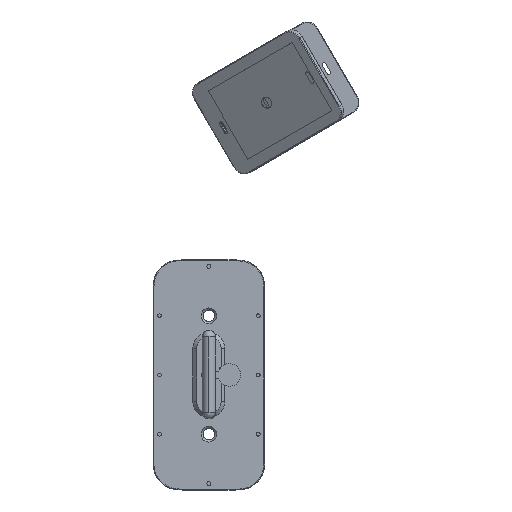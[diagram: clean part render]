
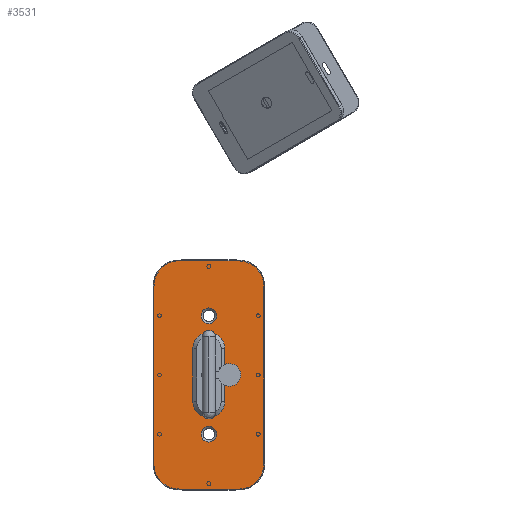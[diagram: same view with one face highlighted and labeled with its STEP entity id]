
A CAD part, top view. The second image highlights one B-rep face of the part: STEP entity #3531.
In plain terms, the highlighted planar face has unit normal (0, 0, 1) as drawn and (0, 0, -1) by its records, which use the part's own axes.
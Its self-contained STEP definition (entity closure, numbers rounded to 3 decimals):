
#120=FACE_BOUND('',#1253,.T.);
#121=FACE_BOUND('',#1254,.T.);
#122=FACE_BOUND('',#1255,.T.);
#191=PLANE('',#3946);
#292=B_SPLINE_CURVE_WITH_KNOTS('',3,(#6095,#6096,#6097,#6098,#6099,#6100,
#6101,#6102,#6103,#6104,#6105,#6106,#6107,#6108),.UNSPECIFIED.,.F.,.F.,
(4,1,1,1,1,1,1,1,1,1,1,4),(0.,0.886,1.772,2.658,
3.544,5.316,7.088,8.86,9.746,
10.631,11.517,12.403),.UNSPECIFIED.);
#294=B_SPLINE_CURVE_WITH_KNOTS('',3,(#6202,#6203,#6204,#6205,#6206,#6207,
#6208,#6209,#6210,#6211,#6212,#6213,#6214,#6215),.UNSPECIFIED.,.F.,.F.,
(4,1,1,1,1,1,1,1,1,1,1,4),(0.,0.886,1.772,2.658,
3.544,5.316,7.088,8.86,9.746,
10.631,11.517,12.403),.UNSPECIFIED.);
#296=B_SPLINE_CURVE_WITH_KNOTS('',3,(#6309,#6310,#6311,#6312,#6313,#6314,
#6315,#6316,#6317,#6318,#6319,#6320,#6321,#6322),.UNSPECIFIED.,.F.,.F.,
(4,1,1,1,1,1,1,1,1,1,1,4),(0.,0.886,1.772,
2.658,3.544,5.316,7.088,8.86,
9.746,10.631,11.517,12.403),
 .UNSPECIFIED.);
#298=B_SPLINE_CURVE_WITH_KNOTS('',3,(#6404,#6405,#6406,#6407,#6408,#6409,
#6410,#6411,#6412,#6413,#6414,#6415),.UNSPECIFIED.,.F.,.F.,(4,1,1,1,1,1,
1,1,1,4),(0.,0.886,1.772,2.658,3.544,
5.316,7.088,8.86,10.631,12.403),
 .UNSPECIFIED.);
#369=LINE('',#6114,#658);
#371=LINE('',#6221,#660);
#373=LINE('',#6328,#662);
#374=LINE('',#6417,#663);
#658=VECTOR('',#4497,10.);
#660=VECTOR('',#4505,10.);
#662=VECTOR('',#4513,10.);
#663=VECTOR('',#4518,10.);
#1026=FACE_OUTER_BOUND('',#1252,.T.);
#1252=EDGE_LOOP('',(#2741,#2742,#2743,#2744,#2745,#2746,#2747,#2748));
#1253=EDGE_LOOP('',(#2749));
#1254=EDGE_LOOP('',(#2750));
#1255=EDGE_LOOP('',(#2751));
#1506=CIRCLE('',#3947,20.75);
#1507=CIRCLE('',#3948,20.75);
#1508=CIRCLE('',#3949,20.75);
#1712=VERTEX_POINT('',#6075);
#1715=VERTEX_POINT('',#6093);
#1716=VERTEX_POINT('',#6110);
#1718=VERTEX_POINT('',#6185);
#1720=VERTEX_POINT('',#6217);
#1722=VERTEX_POINT('',#6292);
#1724=VERTEX_POINT('',#6324);
#1726=VERTEX_POINT('',#6389);
#1733=VERTEX_POINT('',#6539);
#1734=VERTEX_POINT('',#6541);
#1735=VERTEX_POINT('',#6543);
#2079=EDGE_CURVE('',#1715,#1712,#292,.T.);
#2082=EDGE_CURVE('',#1712,#1716,#369,.T.);
#2085=EDGE_CURVE('',#1716,#1718,#294,.T.);
#2088=EDGE_CURVE('',#1718,#1720,#371,.T.);
#2091=EDGE_CURVE('',#1720,#1722,#296,.T.);
#2094=EDGE_CURVE('',#1722,#1724,#373,.T.);
#2097=EDGE_CURVE('',#1724,#1726,#298,.T.);
#2098=EDGE_CURVE('',#1726,#1715,#374,.T.);
#2109=EDGE_CURVE('',#1733,#1733,#1506,.T.);
#2110=EDGE_CURVE('',#1734,#1734,#1507,.T.);
#2111=EDGE_CURVE('',#1735,#1735,#1508,.T.);
#2741=ORIENTED_EDGE('',*,*,#2079,.F.);
#2742=ORIENTED_EDGE('',*,*,#2098,.F.);
#2743=ORIENTED_EDGE('',*,*,#2097,.F.);
#2744=ORIENTED_EDGE('',*,*,#2094,.F.);
#2745=ORIENTED_EDGE('',*,*,#2091,.F.);
#2746=ORIENTED_EDGE('',*,*,#2088,.F.);
#2747=ORIENTED_EDGE('',*,*,#2085,.F.);
#2748=ORIENTED_EDGE('',*,*,#2082,.F.);
#2749=ORIENTED_EDGE('',*,*,#2109,.F.);
#2750=ORIENTED_EDGE('',*,*,#2110,.F.);
#2751=ORIENTED_EDGE('',*,*,#2111,.F.);
#3531=ADVANCED_FACE('',(#1026,#120,#121,#122),#191,.F.);
#3946=AXIS2_PLACEMENT_3D('',#6538,#4531,#4532);
#3947=AXIS2_PLACEMENT_3D('',#6540,#4533,#4534);
#3948=AXIS2_PLACEMENT_3D('',#6542,#4535,#4536);
#3949=AXIS2_PLACEMENT_3D('',#6544,#4537,#4538);
#4497=DIRECTION('',(1.,0.,0.));
#4505=DIRECTION('',(0.,1.,0.));
#4513=DIRECTION('',(-1.,0.,0.));
#4518=DIRECTION('',(0.,-1.,0.));
#4531=DIRECTION('center_axis',(0.,0.,1.));
#4532=DIRECTION('ref_axis',(1.,0.,0.));
#4533=DIRECTION('center_axis',(0.,0.,-1.));
#4534=DIRECTION('ref_axis',(1.,0.,0.));
#4535=DIRECTION('center_axis',(0.,0.,-1.));
#4536=DIRECTION('ref_axis',(1.,0.,0.));
#4537=DIRECTION('center_axis',(0.,0.,-1.));
#4538=DIRECTION('ref_axis',(1.,0.,0.));
#6075=CARTESIAN_POINT('',(87.5,11.,0.));
#6093=CARTESIAN_POINT('',(11.,87.5,0.));
#6095=CARTESIAN_POINT('Ctrl Pts',(11.,87.5,0.));
#6096=CARTESIAN_POINT('Ctrl Pts',(11.,84.547,0.));
#6097=CARTESIAN_POINT('Ctrl Pts',(11.003,78.658,0.));
#6098=CARTESIAN_POINT('Ctrl Pts',(11.561,69.796,0.));
#6099=CARTESIAN_POINT('Ctrl Pts',(13.11,61.045,0.));
#6100=CARTESIAN_POINT('Ctrl Pts',(16.746,49.769,0.));
#6101=CARTESIAN_POINT('Ctrl Pts',(24.298,36.919,0.));
#6102=CARTESIAN_POINT('Ctrl Pts',(36.924,24.294,0.));
#6103=CARTESIAN_POINT('Ctrl Pts',(49.766,16.745,0.));
#6104=CARTESIAN_POINT('Ctrl Pts',(61.051,13.109,0.));
#6105=CARTESIAN_POINT('Ctrl Pts',(69.788,11.563,0.));
#6106=CARTESIAN_POINT('Ctrl Pts',(78.645,11.003,0.));
#6107=CARTESIAN_POINT('Ctrl Pts',(84.547,11.,0.));
#6108=CARTESIAN_POINT('Ctrl Pts',(87.5,11.,0.));
#6110=CARTESIAN_POINT('',(540.5,11.,0.));
#6114=CARTESIAN_POINT('',(161.5,11.,0.));
#6185=CARTESIAN_POINT('',(617.,87.5,0.));
#6202=CARTESIAN_POINT('Ctrl Pts',(540.5,11.,0.));
#6203=CARTESIAN_POINT('Ctrl Pts',(543.453,11.,0.));
#6204=CARTESIAN_POINT('Ctrl Pts',(549.343,11.002,0.));
#6205=CARTESIAN_POINT('Ctrl Pts',(558.204,11.562,0.));
#6206=CARTESIAN_POINT('Ctrl Pts',(566.956,13.11,0.));
#6207=CARTESIAN_POINT('Ctrl Pts',(578.228,16.747,0.));
#6208=CARTESIAN_POINT('Ctrl Pts',(591.082,24.297,0.));
#6209=CARTESIAN_POINT('Ctrl Pts',(603.706,36.924,0.));
#6210=CARTESIAN_POINT('Ctrl Pts',(611.254,49.766,0.));
#6211=CARTESIAN_POINT('Ctrl Pts',(614.892,61.05,0.));
#6212=CARTESIAN_POINT('Ctrl Pts',(616.437,69.788,0.));
#6213=CARTESIAN_POINT('Ctrl Pts',(616.998,78.645,0.));
#6214=CARTESIAN_POINT('Ctrl Pts',(617.,84.547,0.));
#6215=CARTESIAN_POINT('Ctrl Pts',(617.,87.5,0.));
#6217=CARTESIAN_POINT('',(617.,226.5,0.));
#6221=CARTESIAN_POINT('',(617.,83.,0.));
#6292=CARTESIAN_POINT('',(540.5,303.,0.));
#6309=CARTESIAN_POINT('Ctrl Pts',(617.,226.5,0.));
#6310=CARTESIAN_POINT('Ctrl Pts',(617.,229.453,0.));
#6311=CARTESIAN_POINT('Ctrl Pts',(616.998,235.343,0.));
#6312=CARTESIAN_POINT('Ctrl Pts',(616.438,244.204,0.));
#6313=CARTESIAN_POINT('Ctrl Pts',(614.89,252.956,0.));
#6314=CARTESIAN_POINT('Ctrl Pts',(611.252,264.228,0.));
#6315=CARTESIAN_POINT('Ctrl Pts',(603.703,277.082,0.));
#6316=CARTESIAN_POINT('Ctrl Pts',(591.076,289.706,0.));
#6317=CARTESIAN_POINT('Ctrl Pts',(578.234,297.254,0.));
#6318=CARTESIAN_POINT('Ctrl Pts',(566.95,300.892,0.));
#6319=CARTESIAN_POINT('Ctrl Pts',(558.212,302.437,0.));
#6320=CARTESIAN_POINT('Ctrl Pts',(549.355,302.998,0.));
#6321=CARTESIAN_POINT('Ctrl Pts',(543.453,303.,0.));
#6322=CARTESIAN_POINT('Ctrl Pts',(540.5,303.,0.));
#6324=CARTESIAN_POINT('',(87.5,303.,0.));
#6328=CARTESIAN_POINT('',(466.5,303.,0.));
#6389=CARTESIAN_POINT('',(11.,226.5,0.));
#6404=CARTESIAN_POINT('Ctrl Pts',(87.5,303.,0.));
#6405=CARTESIAN_POINT('Ctrl Pts',(84.547,303.,0.));
#6406=CARTESIAN_POINT('Ctrl Pts',(78.657,302.997,0.));
#6407=CARTESIAN_POINT('Ctrl Pts',(69.796,302.439,0.));
#6408=CARTESIAN_POINT('Ctrl Pts',(61.044,300.89,0.));
#6409=CARTESIAN_POINT('Ctrl Pts',(49.772,297.254,0.));
#6410=CARTESIAN_POINT('Ctrl Pts',(36.913,289.701,0.));
#6411=CARTESIAN_POINT('Ctrl Pts',(24.303,277.078,0.));
#6412=CARTESIAN_POINT('Ctrl Pts',(15.212,261.662,0.));
#6413=CARTESIAN_POINT('Ctrl Pts',(11.036,244.249,0.));
#6414=CARTESIAN_POINT('Ctrl Pts',(11.,232.406,0.));
#6415=CARTESIAN_POINT('Ctrl Pts',(11.,226.5,0.));
#6417=CARTESIAN_POINT('',(11.,231.,0.));
#6538=CARTESIAN_POINT('Origin',(314.,157.,0.));
#6539=CARTESIAN_POINT('',(450.25,157.,0.));
#6540=CARTESIAN_POINT('Origin',(471.,157.,0.));
#6541=CARTESIAN_POINT('',(136.25,157.,0.));
#6542=CARTESIAN_POINT('Origin',(157.,157.,0.));
#6543=CARTESIAN_POINT('',(293.25,157.,0.));
#6544=CARTESIAN_POINT('Origin',(314.,157.,0.));
